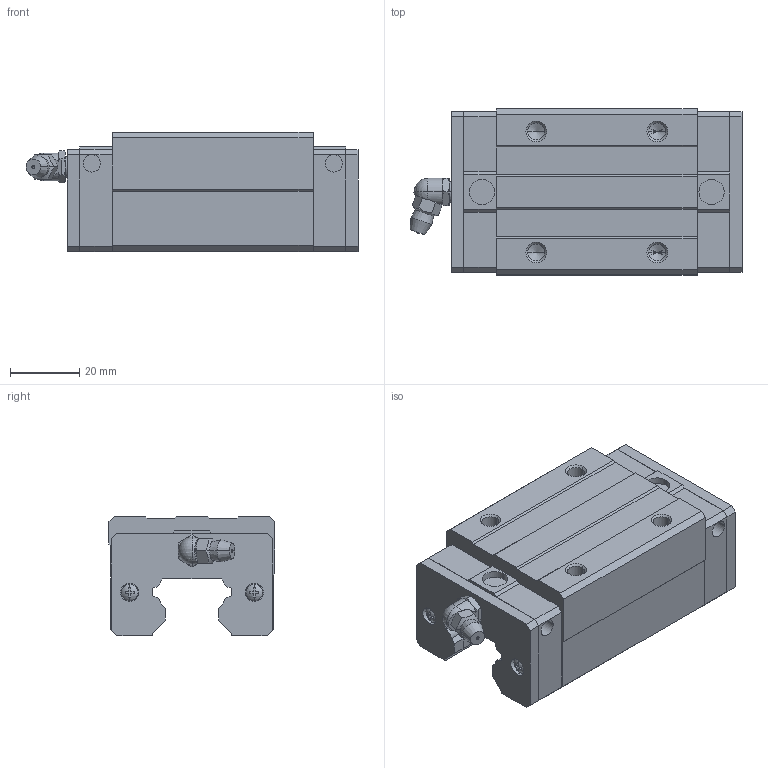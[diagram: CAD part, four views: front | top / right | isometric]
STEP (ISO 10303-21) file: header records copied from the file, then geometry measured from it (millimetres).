
FILE_DESCRIPTION(('starvars output'),'2;1');
FILE_NAME('cv20190617061050000042011.stp','06:10:51 2019/06/17',( 'Thomas Industrial Network Germany GmbH'),( 'Thomas Industrial Network Germany GmbH'),'unknown preprocess','ACIS' ,'unknown authorization');
FILE_SCHEMA(('CONFIG_CONTROL_DESIGN {UNKNOWN IMPLEMENTATION LEVEL}'));
Length unit declared in the file: millimetre
Products named in the file (10): PRODUCT_ID_3; PRODUCT_ID_4; PRODUCT_ID_5; PRODUCT_ID_6; PRODUCT_ID_7; PRODUCT_ID_8; PRODUCT_ID_9; PRODUCT_ID_10; PRODUCT_ID_11; PRODUCT_ID_12
Bounding box: 96 x 48 x 34.5 mm (x, y, z)
Volume: 102720.4 mm3; surface area: 29624 mm2
Topology: 10 solids, 10 shells, 397 faces, 1016 edges, 644 vertices
Faces by surface type: plane 250, cylinder 71, cone 64, sphere 12
Entity records: 11465 total; most frequent: ORIENTED_EDGE 2008, CARTESIAN_POINT 1877, DIRECTION 1563, EDGE_CURVE 1004, VECTOR 651, LINE 651, VERTEX_POINT 644, AXIS2_PLACEMENT_3D 456
